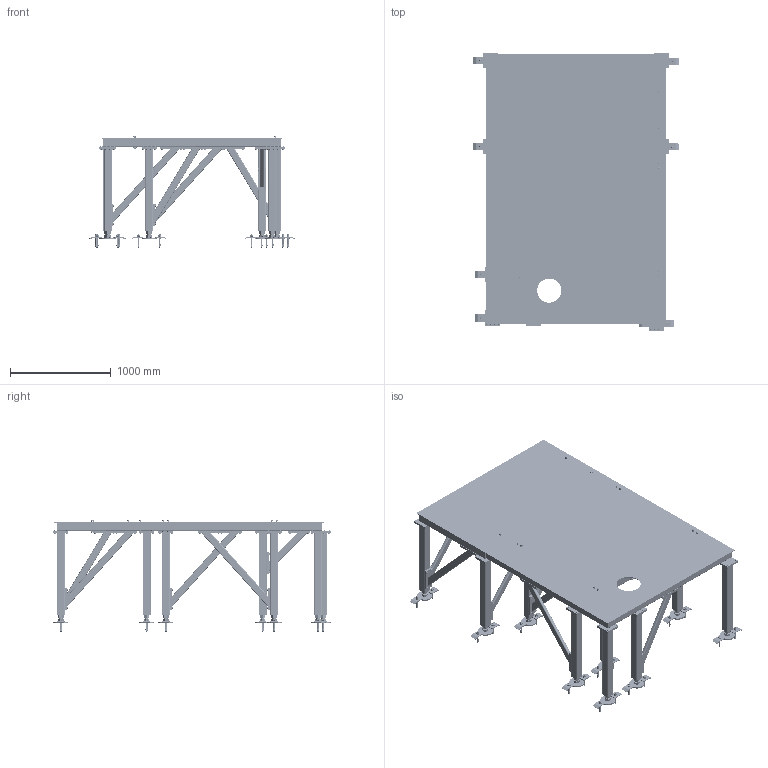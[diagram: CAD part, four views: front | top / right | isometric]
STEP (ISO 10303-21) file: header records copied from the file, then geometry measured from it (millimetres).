
FILE_DESCRIPTION (( 'STEP AP214' ), '1' );
FILE_NAME ('FAU-MALTAIR02-01 CHASSIS ENSEMBLE .STEP', '2025-01-19T11:26:49', ( '' ), ( '' ), 'SwSTEP 2.0', 'SolidWorks 2017', '' );
FILE_SCHEMA (( 'AUTOMOTIVE_DESIGN' ));
Length unit declared in the file: millimetre
Products named in the file (39): zz-M12 ASSY_M12-90; FAU-MALTAIR02-03-04_INOX; zz_Washer_WASHER Z 12; FAU-MALTAIR02-05 PIEDS_1<Brut d''usinage>; FAU-MALTAIR02-06 CONTREVENEMENT_1<Brut d''usinage>; ESQ; FAU-MALTAIR02-06 CONTREVENEMENT_3<Brut d''usinage>; FAU-MALTAIR02-10_M16; Z Screw_H_SCREW H M10x30-26; z_vis H_vis H M10x120; zz_Washer_WASHER L10; zz-z_NUT_H_NUT H M 10; FAU-MALTAIR02-07 SUPPORT M36; Z-ecrou_din934_m36-10; FAU-MALTAIR02-08; FAU-MALTAIR02-07 SUPPORT M36_DWG; FAU-MALTAIR02-01 CHASSIS ENSEMBLE ; FAU-MALTAIR02-05 pied assy_2; Z vis h _m36x140; FAU-MALTAIR02-06 CONTREVENEMENT_2<Brut d''usinage>; FAU-MALTAIR02-02_D‚faut<Brut d''usinage>; zz-z_NUT_H_NUT H M 12; zz-Vis H M12_vis H M12-110; zz-M12 ASSY_M10-94.4; FAU-MALTAIR02-03-04; FAU-MALTAIR02-05 pied assy v2_2 spe; FAU-MALTAIR02-05 pied assy_2 court court; Z-Hilti_Cheville segments HSA M16x137; FAU-MALTAIR02-05 PIEDS_0<Brut d''usinage>; FAU-MALTAIR02-05 spe PIEDS_1-1<Brut d''usinage>; FAU-MALTAIR02-05 pied assy_0; Z-cacher; FAU-MALTAIR02-05 PIEDS_2<Brut d''usinage>; FAU-MALTAIR02-01; FAU-MALTAIR02-05 pied assy_1 court; Z M10 assy; FAU-MALTAIR02-05 pied assy_1; Z Washer_WASHER M 10
Assembly tree (236 placements, depth 5):
  ESQ
  FAU-MALTAIR02-01 CHASSIS ENSEMBLE 
    FAU-MALTAIR02-01
      FAU-MALTAIR02-03-04
      FAU-MALTAIR02-03-04_INOX
      FAU-MALTAIR02-02_D‚faut<Brut d''usinage>
      FAU-MALTAIR02-10_M16
        Z-cacher
        FAU-MALTAIR02-08  x2
        Z-Hilti_Cheville segments HSA M16x137  x2
      FAU-MALTAIR02-05 pied assy_2  x2
        FAU-MALTAIR02-05 PIEDS_1<Brut d''usinage>
        Z M10 assy
          Z Screw_H_SCREW H M10x30-26
          Z Washer_WASHER M 10
        FAU-MALTAIR02-06 CONTREVENEMENT_1<Brut d''usinage>
        FAU-MALTAIR02-07 SUPPORT M36_DWG
          Z vis h _m36x140
          Z-ecrou_din934_m36-10
          FAU-MALTAIR02-07 SUPPORT M36
      FAU-MALTAIR02-05 pied assy_1 court  x2
        FAU-MALTAIR02-05 PIEDS_2<Brut d''usinage>
        Z M10 assy
          Z Screw_H_SCREW H M10x30-26
          Z Washer_WASHER M 10
        FAU-MALTAIR02-06 CONTREVENEMENT_2<Brut d''usinage>
        FAU-MALTAIR02-07 SUPPORT M36_DWG
          Z vis h _m36x140
          Z-ecrou_din934_m36-10
          FAU-MALTAIR02-07 SUPPORT M36
      FAU-MALTAIR02-05 pied assy_1  x3
        FAU-MALTAIR02-05 PIEDS_2<Brut d''usinage>
        Z M10 assy
          Z Screw_H_SCREW H M10x30-26
          Z Washer_WASHER M 10
        FAU-MALTAIR02-06 CONTREVENEMENT_1<Brut d''usinage>
        FAU-MALTAIR02-07 SUPPORT M36_DWG
          Z vis h _m36x140
          Z-ecrou_din934_m36-10
          FAU-MALTAIR02-07 SUPPORT M36
      FAU-MALTAIR02-05 pied assy_0  x3
        FAU-MALTAIR02-05 PIEDS_0<Brut d''usinage>
        FAU-MALTAIR02-07 SUPPORT M36_DWG
          Z vis h _m36x140
          Z-ecrou_din934_m36-10
          FAU-MALTAIR02-07 SUPPORT M36
      FAU-MALTAIR02-05 pied assy v2_2 spe
        FAU-MALTAIR02-05 spe PIEDS_1-1<Brut d''usinage>
        FAU-MALTAIR02-06 CONTREVENEMENT_3<Brut d''usinage>
        FAU-MALTAIR02-07 SUPPORT M36_DWG
          Z vis h _m36x140
          Z-ecrou_din934_m36-10
          FAU-MALTAIR02-07 SUPPORT M36
        Z M10 assy  x8
          Z Screw_H_SCREW H M10x30-26
          Z Washer_WASHER M 10
      FAU-MALTAIR02-10_M16  x11
        FAU-MALTAIR02-08
        Z-Hilti_Cheville segments HSA M16x137
      FAU-MALTAIR02-05 pied assy_2 court court
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Bounding box: 2034.2 x 2750 x 1101.39 mm (x, y, z)
Volume: 91743541.8 mm3; surface area: 48647019.2 mm2
Topology: 740 solids, 764 shells, 11381 faces, 26883 edges, 17288 vertices
Faces by surface type: plane 4735, cylinder 4374, cone 2080, bspline 192
Entity records: 85451 total; most frequent: CARTESIAN_POINT 15459, DIRECTION 14243, ORIENTED_EDGE 12886, EDGE_CURVE 6443, AXIS2_PLACEMENT_3D 5484, VERTEX_POINT 4222, EDGE_LOOP 3437, VECTOR 3275
